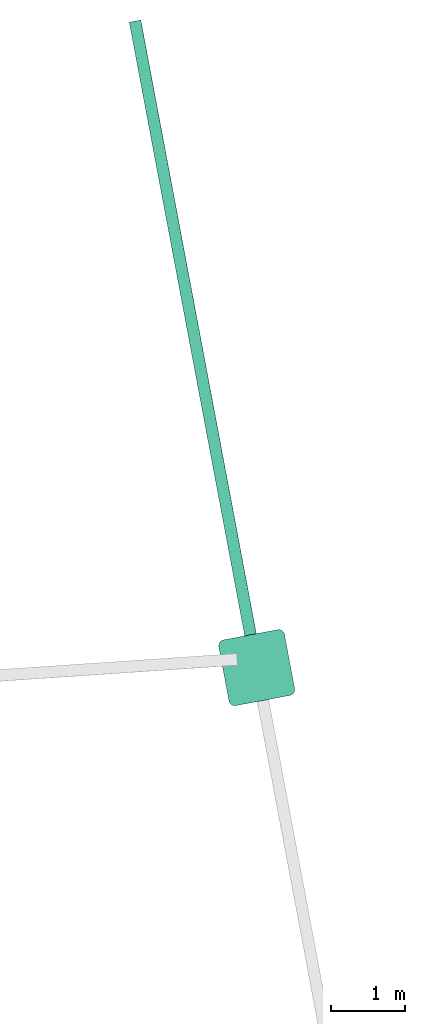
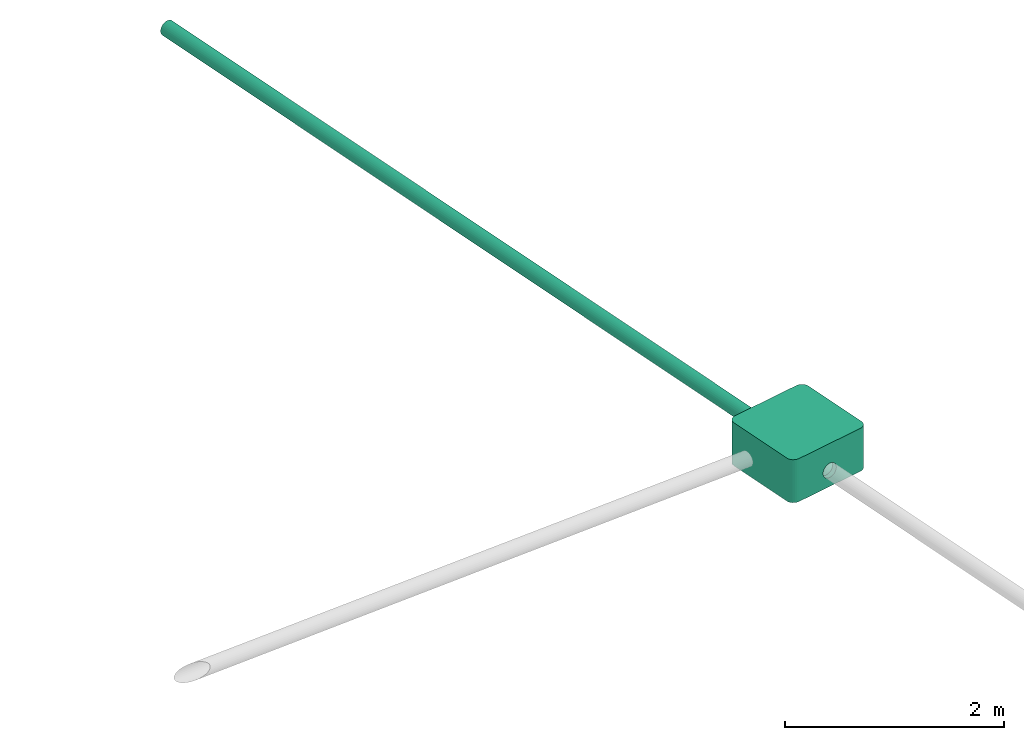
# One storey, part 13 of 17: 1 flow controller, 1 flow segment.
"""IFC2X3 building model written with IfcOpenShell, lengths in centimetres."""

from ifc_helpers import new_model, entity, si_unit, converted_unit, derived_unit, direction, frame, frame_2d, origin, place, context, subcontext, project, spatial, circle, extrude, faceted_brep, source, transform, mapped, material, type_object, type_shapes, element, save


model = new_model("IFC2X3")

# Units and contexts
model_context = context("Model", 3, precision=0.001, world=origin(), true_north=direction((6.12303176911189e-17, 1.0)))
body_context = subcontext(model_context, "Body", "Model", "MODEL_VIEW")
ifc_project = project(units=[si_unit("LENGTHUNIT", "METRE", prefix="CENTI"), si_unit("AREAUNIT", "SQUARE_METRE"), si_unit("VOLUMEUNIT", "CUBIC_METRE"), converted_unit("PLANEANGLEUNIT", "DEGREE", entity("IfcRatioMeasure", 0.0174532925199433), si_unit("PLANEANGLEUNIT", "RADIAN"), dimensions=[0, 0, 0, 0, 0, 0, 0]), si_unit("MASSUNIT", "GRAM", prefix="KILO"), derived_unit("MASSDENSITYUNIT", [(si_unit("MASSUNIT", "GRAM", prefix="KILO"), 1), (si_unit("LENGTHUNIT", "METRE"), -3)]), si_unit("TIMEUNIT", "SECOND"), si_unit("FREQUENCYUNIT", "HERTZ"), si_unit("THERMODYNAMICTEMPERATUREUNIT", "DEGREE_CELSIUS"), derived_unit("THERMALTRANSMITTANCEUNIT", [(si_unit("MASSUNIT", "GRAM", prefix="KILO"), 1), (si_unit("THERMODYNAMICTEMPERATUREUNIT", "KELVIN"), -1), (si_unit("TIMEUNIT", "SECOND"), -3)]), derived_unit("VOLUMETRICFLOWRATEUNIT", [(si_unit("LENGTHUNIT", "METRE"), 3), (si_unit("TIMEUNIT", "SECOND"), -1)]), si_unit("ELECTRICCURRENTUNIT", "AMPERE"), si_unit("ELECTRICVOLTAGEUNIT", "VOLT"), si_unit("POWERUNIT", "WATT"), si_unit("FORCEUNIT", "NEWTON", prefix="KILO"), si_unit("ILLUMINANCEUNIT", "LUX"), si_unit("LUMINOUSFLUXUNIT", "LUMEN"), si_unit("LUMINOUSINTENSITYUNIT", "CANDELA"), derived_unit("USERDEFINED", [(si_unit("MASSUNIT", "GRAM", prefix="KILO"), -1), (si_unit("LENGTHUNIT", "METRE"), -2), (si_unit("TIMEUNIT", "SECOND"), 3), (si_unit("LUMINOUSFLUXUNIT", "LUMEN"), 1)]), derived_unit("LINEARVELOCITYUNIT", [(si_unit("LENGTHUNIT", "METRE"), 1), (si_unit("TIMEUNIT", "SECOND"), -1)]), si_unit("PRESSUREUNIT", "PASCAL"), derived_unit("USERDEFINED", [(si_unit("LENGTHUNIT", "METRE"), -2), (si_unit("MASSUNIT", "GRAM", prefix="KILO"), 1), (si_unit("TIMEUNIT", "SECOND"), -2)])], contexts=[model_context])

# Site, building, storey
site_placement = place(None, frame((2611.71187422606, 13650.4058644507, 0.0), z_axis=(0.0, 0.0, 1.0), x_axis=(0.0673222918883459, -0.997731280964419, 0.0)))
site = spatial("IfcSite", under=ifc_project, at=site_placement, Name="Surface", CompositionType="ELEMENT")
building_placement = place(site_placement, origin())
building = spatial("IfcBuilding", under=site, at=building_placement, CompositionType="ELEMENT")
storey_placement = place(building_placement, frame((0.0, 0.0, 86950.0)))
storey = spatial("IfcBuildingStorey", under=building, at=storey_placement, Name="-1 Soubassement", CompositionType="ELEMENT", Elevation=86950.0)

# Flow controller
ifc_material = material(Name="Béton, précoulé")
valve_type = type_object("IfcValveType", Name="Regard EP 900x900", PredefinedType="NOTDEFINED", material=ifc_material)
shared_shape = source(origin(), body_context, "Body", "Brep", [
    faceted_brep([(82.1595272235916, 90.1595272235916, 48.0), (8.15952722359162, 90.1595272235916, 48.0), (6.08897486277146, 89.8869338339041, 48.0), (4.15952722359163, 89.0877304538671, 48.0), (2.50267297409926, 87.816381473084, 48.0), (1.23132399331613, 86.1595272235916, 48.0), (0.43212061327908, 84.2300795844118, 48.0), (0.159527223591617, 82.1595272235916, 48.0), (0.159527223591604, 8.15952722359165, 48.0), (0.432120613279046, 6.08897486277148, 48.0), (1.23132399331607, 4.15952722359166, 48.0), (2.50267297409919, 2.50267297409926, 48.0), (4.15952722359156, 1.23132399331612, 48.0), (6.08897486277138, 0.43212061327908, 48.0), (8.15952722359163, 0.159527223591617, 48.0), (82.1595272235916, 0.159527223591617, 48.0), (84.2300795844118, 0.43212061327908, 48.0), (86.1595272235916, 1.23132399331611, 48.0), (87.816381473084, 2.50267297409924, 48.0), (89.0877304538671, 4.15952722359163, 48.0), (89.8869338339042, 6.08897486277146, 48.0), (90.1595272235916, 8.15952722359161, 48.0), (90.1595272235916, 82.1595272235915, 48.0), (89.8869338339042, 84.2300795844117, 48.0), (89.0877304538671, 86.1595272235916, 48.0), (87.816381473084, 87.8163814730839, 48.0), (86.1595272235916, 89.0877304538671, 48.0), (84.2300795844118, 89.8869338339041, 48.0), (0.159527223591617, 82.1595272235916, 43.0), (0.43212061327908, 84.2300795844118, 43.0), (1.23132399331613, 86.1595272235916, 43.0), (2.50267297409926, 87.816381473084, 43.0), (4.15952722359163, 89.0877304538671, 43.0), (6.08897486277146, 89.8869338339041, 43.0), (8.15952722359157, 90.1595272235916, 43.0), (82.1595272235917, 90.1595272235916, 43.0), (84.2300795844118, 89.8869338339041, 43.0), (86.1595272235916, 89.0877304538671, 43.0), (87.816381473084, 87.8163814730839, 43.0), (89.0877304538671, 86.1595272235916, 43.0), (89.8869338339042, 84.2300795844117, 43.0), (90.1595272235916, 82.1595272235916, 43.0), (90.1595272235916, 8.15952722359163, 43.0), (89.8869338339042, 6.08897486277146, 43.0), (89.0877304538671, 4.15952722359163, 43.0), (87.816381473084, 2.50267297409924, 43.0), (86.1595272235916, 1.23132399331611, 43.0), (84.2300795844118, 0.43212061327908, 43.0), (82.1595272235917, 0.159527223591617, 43.0), (8.15952722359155, 0.159527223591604, 43.0), (6.08897486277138, 0.43212061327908, 43.0), (4.15952722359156, 1.23132399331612, 43.0), (2.50267297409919, 2.50267297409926, 43.0), (1.23132399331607, 4.15952722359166, 43.0), (0.432120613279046, 6.08897486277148, 43.0), (0.159527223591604, 8.15952722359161, 43.0)], [[[0, 1, 2, 3, 4, 5, 6, 7, 8, 9, 10, 11, 12, 13, 14, 15, 16, 17, 18, 19, 20, 21, 22, 23, 24, 25, 26, 27]], [[28, 29, 30, 31, 32, 33, 34, 35, 36, 37, 38, 39, 40, 41, 42, 43, 44, 45, 46, 47, 48, 49, 50, 51, 52, 53, 54, 55]], [[1, 0, 35, 34]], [[2, 1, 34, 33]], [[3, 2, 33, 32]], [[4, 3, 32, 31]], [[29, 28, 7, 6]], [[5, 4, 31, 30]], [[30, 29, 6, 5]], [[8, 7, 28, 55]], [[9, 8, 55, 54]], [[10, 9, 54, 53]], [[11, 10, 53, 52]], [[50, 49, 14, 13]], [[12, 51, 50, 13]], [[51, 12, 11, 52]], [[15, 14, 49, 48]], [[16, 15, 48, 47]], [[17, 16, 47, 46]], [[18, 17, 46, 45]], [[45, 44, 19, 18]], [[19, 44, 43, 20]], [[21, 20, 43, 42]], [[22, 21, 42, 41]], [[23, 22, 41, 40]], [[24, 23, 40, 39]], [[25, 24, 39, 38]], [[26, 25, 38, 37]], [[26, 37, 36, 27]], [[36, 35, 0, 27]]]),
    faceted_brep([(0.159527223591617, 82.1595272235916, 0.0), (0.432120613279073, 84.2300795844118, 0.0), (1.23132399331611, 86.1595272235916, 0.0), (2.50267297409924, 87.816381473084, 0.0), (4.15952722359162, 89.0877304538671, 0.0), (6.08897486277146, 89.8869338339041, 0.0), (8.15952722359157, 90.1595272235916, 0.0), (82.1595272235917, 90.1595272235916, 0.0), (84.2300795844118, 89.8869338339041, 0.0), (86.1595272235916, 89.0877304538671, 0.0), (87.816381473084, 87.8163814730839, 0.0), (89.0877304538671, 86.1595272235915, 0.0), (89.8869338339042, 84.2300795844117, 0.0), (90.1595272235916, 82.1595272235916, 0.0), (90.1595272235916, 8.15952722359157, 0.0), (89.8869338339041, 6.0889748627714, 0.0), (89.0877304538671, 4.15952722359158, 0.0), (87.816381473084, 2.5026729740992, 0.0), (86.1595272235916, 1.23132399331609, 0.0), (84.2300795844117, 0.43212061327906, 0.0), (82.1595272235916, 0.159527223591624, 0.0), (8.15952722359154, 0.159527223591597, 0.0), (6.08897486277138, 0.43212061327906, 0.0), (4.15952722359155, 1.23132399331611, 0.0), (2.50267297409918, 2.50267297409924, 0.0), (1.23132399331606, 4.15952722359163, 0.0), (0.43212061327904, 6.08897486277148, 0.0), (0.159527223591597, 8.15952722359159, 0.0), (87.816381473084, 87.8163814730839, 5.0), (86.1595272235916, 89.0877304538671, 5.0), (84.2300795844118, 89.8869338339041, 5.0), (82.1595272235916, 90.1595272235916, 5.0), (8.15952722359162, 90.1595272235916, 5.0), (6.08897486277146, 89.8869338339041, 5.0), (4.15952722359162, 89.0877304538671, 5.0), (2.50267297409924, 87.816381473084, 5.0), (1.23132399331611, 86.1595272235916, 5.0), (0.432120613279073, 84.2300795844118, 5.0), (0.159527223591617, 82.1595272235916, 5.0), (0.159527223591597, 8.15952722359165, 5.0), (0.43212061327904, 6.08897486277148, 5.0), (1.23132399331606, 4.15952722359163, 5.0), (2.50267297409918, 2.50267297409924, 5.0), (4.15952722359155, 1.23132399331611, 5.0), (6.08897486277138, 0.43212061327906, 5.0), (8.15952722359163, 0.15952722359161, 5.0), (82.1595272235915, 0.159527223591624, 5.0), (84.2300795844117, 0.43212061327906, 5.0), (86.1595272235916, 1.23132399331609, 5.0), (87.816381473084, 2.5026729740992, 5.0), (89.0877304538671, 4.15952722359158, 5.0), (89.8869338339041, 6.0889748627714, 5.0), (90.1595272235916, 8.15952722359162, 5.0), (90.1595272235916, 82.1595272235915, 5.0), (89.8869338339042, 84.2300795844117, 5.0), (89.0877304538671, 86.1595272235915, 5.0)], [[[0, 1, 2, 3, 4, 5, 6, 7, 8, 9, 10, 11, 12, 13, 14, 15, 16, 17, 18, 19, 20, 21, 22, 23, 24, 25, 26, 27]], [[28, 29, 30, 31, 32, 33, 34, 35, 36, 37, 38, 39, 40, 41, 42, 43, 44, 45, 46, 47, 48, 49, 50, 51, 52, 53, 54, 55]], [[32, 31, 7, 6]], [[39, 38, 0, 27]], [[46, 45, 21, 20]], [[53, 52, 14, 13]], [[33, 32, 6, 5]], [[34, 33, 5, 4]], [[35, 34, 4, 3]], [[1, 0, 38, 37]], [[36, 35, 3, 2]], [[2, 1, 37, 36]], [[40, 39, 27, 26]], [[41, 40, 26, 25]], [[42, 41, 25, 24]], [[22, 21, 45, 44]], [[43, 23, 22, 44]], [[23, 43, 42, 24]], [[47, 46, 20, 19]], [[48, 47, 19, 18]], [[49, 48, 18, 17]], [[17, 16, 50, 49]], [[50, 16, 15, 51]], [[52, 51, 15, 14]], [[54, 53, 13, 12]], [[55, 54, 12, 11]], [[28, 55, 11, 10]], [[29, 28, 10, 9]], [[29, 9, 8, 30]], [[8, 7, 31, 30]]]),
    faceted_brep([(86.1595272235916, 1.23132399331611, 43.0), (83.6595272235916, 5.56145101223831, 43.0), (84.2300795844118, 0.432120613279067, 43.0), (84.2808475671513, 6.03820688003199, 43.0), (87.816381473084, 2.50267297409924, 43.0), (89.0877304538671, 4.15952722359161, 43.0), (84.7576034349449, 6.65952722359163, 43.0), (89.8869338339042, 6.08897486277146, 43.0), (85.0573047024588, 7.38307008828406, 43.0), (90.1595272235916, 8.15952722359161, 43.0), (85.1595272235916, 8.15952722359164, 43.0), (85.1595272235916, 82.1595272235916, 43.0), (90.1595272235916, 82.1595272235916, 43.0), (85.0573047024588, 82.9359843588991, 43.0), (89.8869338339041, 84.2300795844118, 43.0), (84.7576034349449, 83.6595272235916, 43.0), (89.0877304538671, 86.1595272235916, 43.0), (84.2808475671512, 84.2808475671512, 43.0), (87.816381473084, 87.816381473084, 43.0), (86.1595272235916, 89.0877304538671, 43.0), (83.6595272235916, 84.7576034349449, 43.0), (84.2300795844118, 89.8869338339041, 43.0), (82.9359843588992, 85.0573047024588, 43.0), (82.1595272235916, 90.1595272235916, 43.0), (82.1595272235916, 85.1595272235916, 43.0), (8.15952722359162, 85.1595272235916, 43.0), (8.15952722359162, 90.1595272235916, 43.0), (7.38307008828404, 85.0573047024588, 43.0), (6.08897486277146, 89.8869338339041, 43.0), (6.65952722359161, 84.7576034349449, 43.0), (4.15952722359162, 89.0877304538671, 43.0), (6.03820688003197, 84.2808475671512, 43.0), (2.50267297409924, 87.816381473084, 43.0), (1.23132399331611, 86.1595272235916, 43.0), (5.56145101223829, 83.6595272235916, 43.0), (0.432120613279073, 84.2300795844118, 43.0), (5.26174974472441, 82.9359843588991, 43.0), (0.159527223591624, 82.1595272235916, 43.0), (5.15952722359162, 82.1595272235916, 43.0), (0.159527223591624, 8.15952722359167, 43.0), (5.15952722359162, 8.1595272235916, 43.0), (5.26174974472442, 7.38307008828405, 43.0), (0.43212061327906, 6.08897486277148, 43.0), (5.5614510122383, 6.6595272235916, 43.0), (1.23132399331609, 4.15952722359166, 43.0), (6.03820688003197, 6.03820688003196, 43.0), (2.5026729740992, 2.50267297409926, 43.0), (4.15952722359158, 1.23132399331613, 43.0), (6.65952722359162, 5.5614510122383, 43.0), (6.0889748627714, 0.43212061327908, 43.0), (7.38307008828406, 5.26174974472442, 43.0), (8.15952722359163, 0.159527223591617, 43.0), (8.15952722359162, 5.15952722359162, 43.0), (82.1595272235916, 0.159527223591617, 43.0), (82.9359843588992, 5.26174974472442, 43.0), (82.1595272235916, 5.15952722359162, 43.0), (86.1595272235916, 89.0877304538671, 5.0), (83.6595272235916, 84.7576034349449, 5.0), (84.2300795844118, 89.8869338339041, 5.0), (84.2808475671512, 84.2808475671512, 5.0), (87.816381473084, 87.816381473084, 5.0), (89.0877304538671, 86.1595272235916, 5.0), (84.7576034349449, 83.6595272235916, 5.0), (89.8869338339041, 84.2300795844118, 5.0), (85.0573047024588, 82.9359843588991, 5.0), (90.1595272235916, 82.1595272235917, 5.0), (85.1595272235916, 82.1595272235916, 5.0), (85.1595272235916, 8.15952722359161, 5.0), (90.1595272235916, 8.15952722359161, 5.0), (85.0573047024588, 7.38307008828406, 5.0), (89.8869338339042, 6.08897486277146, 5.0), (84.7576034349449, 6.65952722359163, 5.0), (89.0877304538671, 4.15952722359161, 5.0), (84.2808475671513, 6.03820688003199, 5.0), (87.816381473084, 2.50267297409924, 5.0), (86.1595272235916, 1.23132399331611, 5.0), (83.6595272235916, 5.56145101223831, 5.0), (84.2300795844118, 0.432120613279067, 5.0), (82.9359843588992, 5.26174974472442, 5.0), (82.1595272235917, 0.159527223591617, 5.0), (82.1595272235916, 5.15952722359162, 5.0), (8.15952722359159, 5.15952722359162, 5.0), (8.15952722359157, 0.159527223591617, 5.0), (7.38307008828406, 5.26174974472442, 5.0), (6.0889748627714, 0.43212061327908, 5.0), (6.65952722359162, 5.5614510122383, 5.0), (4.15952722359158, 1.23132399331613, 5.0), (6.03820688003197, 6.03820688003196, 5.0), (2.5026729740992, 2.50267297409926, 5.0), (1.23132399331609, 4.15952722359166, 5.0), (5.5614510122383, 6.6595272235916, 5.0), (0.43212061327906, 6.08897486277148, 5.0), (5.26174974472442, 7.38307008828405, 5.0), (0.159527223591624, 8.15952722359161, 5.0), (5.15952722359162, 8.15952722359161, 5.0), (0.159527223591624, 82.1595272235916, 5.0), (5.15952722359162, 82.1595272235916, 5.0), (5.26174974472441, 82.9359843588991, 5.0), (0.432120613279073, 84.2300795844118, 5.0), (5.56145101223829, 83.6595272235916, 5.0), (1.23132399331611, 86.1595272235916, 5.0), (6.03820688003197, 84.2808475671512, 5.0), (2.50267297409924, 87.816381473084, 5.0), (4.15952722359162, 89.0877304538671, 5.0), (6.65952722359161, 84.7576034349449, 5.0), (6.08897486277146, 89.8869338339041, 5.0), (7.38307008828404, 85.0573047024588, 5.0), (8.15952722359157, 90.1595272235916, 5.0), (8.15952722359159, 85.1595272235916, 5.0), (82.1595272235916, 90.1595272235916, 5.0), (82.9359843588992, 85.0573047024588, 5.0), (82.1595272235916, 85.1595272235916, 5.0), (49.1595272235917, 90.1595272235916, 24.9282032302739), (47.2300795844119, 90.1595272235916, 25.7274066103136), (50.8163814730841, 90.1595272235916, 23.6568542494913), (45.1595272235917, 90.1595272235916, 26.0), (52.0877304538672, 90.1595272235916, 22.0), (52.8869338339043, 90.1595272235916, 20.0705523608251), (53.1595272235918, 90.1595272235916, 18.0), (52.8869338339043, 90.1595272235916, 15.9294476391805), (52.0877304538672, 90.1595272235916, 14.0), (50.8163814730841, 90.1595272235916, 12.3431457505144), (49.1595272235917, 90.1595272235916, 11.0717967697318), (47.2300795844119, 90.1595272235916, 10.2725933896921), (45.1595272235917, 90.1595272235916, 10.0), (37.4321206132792, 90.1595272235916, 20.0705523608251), (43.0889748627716, 90.1595272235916, 10.2725933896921), (41.1595272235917, 90.1595272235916, 11.0717967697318), (39.5026729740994, 90.1595272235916, 12.3431457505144), (38.2313239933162, 90.1595272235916, 14.0), (37.4321206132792, 90.1595272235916, 15.9294476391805), (37.1595272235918, 90.1595272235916, 18.0), (38.2313239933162, 90.1595272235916, 22.0), (43.0889748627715, 90.1595272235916, 25.7274066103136), (41.1595272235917, 90.1595272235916, 24.9282032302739), (39.5026729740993, 90.1595272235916, 23.6568542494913), (41.15952722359, 0.159527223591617, 24.9282032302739), (43.0889748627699, 0.159527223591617, 25.7274066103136), (39.5026729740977, 0.159527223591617, 23.6568542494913), (45.15952722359, 0.159527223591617, 26.0), (38.2313239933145, 0.159527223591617, 22.0), (37.4321206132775, 0.159527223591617, 20.0705523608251), (37.1595272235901, 0.159527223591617, 18.0), (37.4321206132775, 0.159527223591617, 15.9294476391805), (38.2313239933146, 0.159527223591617, 14.0), (39.5026729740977, 0.159527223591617, 12.3431457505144), (41.1595272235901, 0.159527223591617, 11.0717967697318), (43.0889748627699, 0.159527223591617, 10.2725933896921), (45.1595272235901, 0.159527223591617, 10.0), (52.8869338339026, 0.159527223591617, 20.0705523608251), (47.2300795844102, 0.159527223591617, 10.2725933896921), (49.1595272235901, 0.159527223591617, 11.0717967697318), (50.8163814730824, 0.159527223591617, 12.3431457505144), (52.0877304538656, 0.159527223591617, 14.0), (52.8869338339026, 0.159527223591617, 15.9294476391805), (53.1595272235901, 0.159527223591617, 18.0), (52.0877304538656, 0.159527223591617, 22.0), (47.2300795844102, 0.159527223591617, 25.7274066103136), (49.15952722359, 0.159527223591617, 24.9282032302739), (50.8163814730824, 0.159527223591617, 23.6568542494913), (38.2313239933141, 5.15952722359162, 14.0), (37.432120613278, 5.15952722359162, 15.9294476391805), (37.4321206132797, 85.1595272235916, 15.9294476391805), (38.2313239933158, 85.1595272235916, 14.0), (37.15952722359, 5.15952722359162, 18.0), (37.1595272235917, 85.1595272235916, 18.0), (43.0889748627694, 5.15952722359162, 10.2725933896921), (41.1595272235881, 5.15952722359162, 11.0717967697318), (41.1595272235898, 85.1595272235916, 11.0717967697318), (43.0889748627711, 85.1595272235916, 10.2725933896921), (39.5026729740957, 5.15952722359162, 12.3431457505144), (39.5026729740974, 85.1595272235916, 12.3431457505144), (45.15952722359, 5.15952722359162, 10.0), (45.1595272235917, 85.1595272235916, 10.0), (47.2300795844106, 5.15952722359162, 10.2725933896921), (47.2300795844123, 85.1595272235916, 10.2725933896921), (49.1595272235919, 5.15952722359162, 11.0717967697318), (49.1595272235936, 85.1595272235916, 11.0717967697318), (52.0877304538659, 5.15952722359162, 14.0), (50.8163814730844, 5.15952722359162, 12.3431457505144), (50.8163814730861, 85.1595272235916, 12.3431457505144), (52.0877304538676, 85.1595272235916, 14.0), (52.886933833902, 5.15952722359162, 15.9294476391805), (52.8869338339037, 85.1595272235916, 15.9294476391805), (53.15952722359, 5.15952722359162, 18.0), (53.1595272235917, 85.1595272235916, 18.0), (52.0877304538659, 5.15952722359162, 22.0), (52.8869338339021, 5.15952722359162, 20.0705523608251), (52.8869338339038, 85.1595272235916, 20.0705523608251), (52.0877304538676, 85.1595272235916, 22.0), (47.2300795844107, 5.15952722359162, 25.7274066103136), (49.159527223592, 5.15952722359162, 24.9282032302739), (49.1595272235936, 85.1595272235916, 24.9282032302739), (47.2300795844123, 85.1595272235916, 25.7274066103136), (50.8163814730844, 5.15952722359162, 23.6568542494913), (50.8163814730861, 85.1595272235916, 23.6568542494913), (45.15952722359, 5.15952722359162, 26.0), (45.1595272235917, 85.1595272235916, 26.0), (43.0889748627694, 5.15952722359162, 25.7274066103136), (43.0889748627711, 85.1595272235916, 25.7274066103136), (41.1595272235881, 5.15952722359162, 24.9282032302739), (41.1595272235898, 85.1595272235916, 24.9282032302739), (37.432120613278, 5.15952722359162, 20.0705523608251), (38.2313239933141, 5.15952722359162, 22.0), (38.2313239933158, 85.1595272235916, 22.0), (37.4321206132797, 85.1595272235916, 20.0705523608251), (39.5026729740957, 5.15952722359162, 23.6568542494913), (39.5026729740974, 85.1595272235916, 23.6568542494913), (8.15952722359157, 85.1595272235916, 23.8751470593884), (82.1595272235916, 85.1595272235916, 24.1248529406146), (83.3075775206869, 84.9311658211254, 24.0), (82.7444457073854, 85.1019531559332, 21.2463431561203), (84.9311658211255, 83.3075775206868, 24.0), (85.1018157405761, 82.7451365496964, 21.2342534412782), (83.9858115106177, 84.5395872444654, 24.0), (84.5395872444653, 83.9858115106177, 24.0), (85.1595272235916, 82.1595272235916, 23.8751470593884), (85.1595272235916, 8.15952722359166, 24.1248529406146), (84.5395872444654, 6.33324293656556, 24.0), (83.3075775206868, 5.38788862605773, 24.0), (82.7451365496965, 5.21723870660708, 21.2342534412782), (84.9311658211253, 7.01147692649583, 24.0), (85.1018157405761, 7.57391789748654, 26.7657465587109), (83.9858115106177, 5.77946720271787, 24.0), (82.1595272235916, 5.15952722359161, 23.8751470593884), (8.15952722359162, 5.15952722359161, 24.1248529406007), (7.57460873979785, 5.21710129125, 21.2463431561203), (7.01147692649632, 5.38788862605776, 24.0), (5.38788862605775, 7.01147692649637, 24.0), (5.21723870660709, 7.57391789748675, 21.2342534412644), (6.33324293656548, 5.77946720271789, 24.0), (5.77946720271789, 6.33324293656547, 24.0), (5.15952722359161, 8.1595272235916, 23.8751470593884), (5.15952722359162, 82.1595272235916, 24.1248529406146), (5.21710129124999, 82.7444457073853, 21.2463431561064), (5.38788862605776, 83.3075775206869, 24.0), (7.01147692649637, 84.9311658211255, 24.0), (7.57391789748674, 85.1018157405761, 21.2342534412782), (5.77946720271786, 83.9858115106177, 24.0), (6.33324293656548, 84.5395872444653, 24.0)], [[[0, 1, 2]], [[1, 0, 3]], [[4, 3, 0]], [[4, 5, 3]], [[5, 6, 3]], [[5, 7, 6]], [[8, 6, 7]], [[8, 7, 9]], [[8, 9, 10]], [[10, 9, 11]], [[12, 11, 9]], [[13, 11, 12]], [[13, 12, 14]], [[15, 13, 14]], [[16, 15, 14]], [[17, 15, 16]], [[18, 17, 16]], [[18, 19, 17]], [[19, 20, 17]], [[19, 21, 20]], [[20, 21, 22]], [[21, 23, 22]], [[24, 22, 23]], [[24, 23, 25]], [[26, 25, 23]], [[27, 25, 26]], [[27, 26, 28]], [[27, 28, 29]], [[28, 30, 29]], [[31, 29, 30]], [[31, 30, 32]], [[31, 32, 33]], [[33, 34, 31]], [[35, 34, 33]], [[35, 36, 34]], [[36, 35, 37]], [[37, 38, 36]], [[38, 37, 39]], [[39, 40, 38]], [[40, 39, 41]], [[42, 41, 39]], [[41, 42, 43]], [[43, 42, 44]], [[43, 44, 45]], [[45, 44, 46]], [[45, 46, 47]], [[45, 47, 48]], [[47, 49, 48]], [[50, 48, 49]], [[51, 50, 49]], [[51, 52, 50]], [[52, 51, 53]], [[53, 2, 54]], [[54, 55, 53]], [[53, 55, 52]], [[54, 2, 1]], [[56, 57, 58]], [[57, 56, 59]], [[60, 59, 56]], [[60, 61, 59]], [[61, 62, 59]], [[61, 63, 62]], [[64, 62, 63]], [[64, 63, 65]], [[64, 65, 66]], [[66, 65, 67]], [[68, 67, 65]], [[69, 67, 68]], [[69, 68, 70]], [[71, 69, 70]], [[72, 71, 70]], [[73, 71, 72]], [[74, 73, 72]], [[74, 75, 73]], [[75, 76, 73]], [[75, 77, 76]], [[76, 77, 78]], [[77, 79, 78]], [[80, 78, 79]], [[80, 79, 81]], [[82, 81, 79]], [[83, 81, 82]], [[83, 82, 84]], [[83, 84, 85]], [[84, 86, 85]], [[87, 85, 86]], [[87, 86, 88]], [[87, 88, 89]], [[89, 90, 87]], [[91, 90, 89]], [[91, 92, 90]], [[92, 91, 93]], [[93, 94, 92]], [[94, 93, 95]], [[95, 96, 94]], [[96, 95, 97]], [[98, 97, 95]], [[97, 98, 99]], [[99, 98, 100]], [[99, 100, 101]], [[101, 100, 102]], [[101, 102, 103]], [[101, 103, 104]], [[103, 105, 104]], [[106, 104, 105]], [[107, 106, 105]], [[107, 108, 106]], [[108, 107, 109]], [[109, 58, 110]], [[110, 111, 109]], [[109, 111, 108]], [[110, 58, 57]], [[12, 9, 68, 65]], [[23, 112, 113]], [[112, 23, 114]], [[23, 113, 115]], [[116, 114, 23]], [[117, 116, 23]], [[117, 23, 109]], [[115, 26, 23]], [[109, 118, 117]], [[119, 118, 109]], [[120, 119, 109]], [[121, 120, 109]], [[109, 122, 121]], [[122, 109, 123]], [[124, 123, 109]], [[109, 107, 124]], [[26, 125, 107]], [[126, 124, 107]], [[127, 126, 107]], [[107, 128, 127]], [[128, 107, 129]], [[130, 129, 107]], [[131, 130, 107]], [[131, 107, 125]], [[132, 125, 26]], [[26, 115, 133]], [[26, 133, 134]], [[134, 135, 26]], [[135, 132, 26]], [[39, 37, 95, 93]], [[51, 136, 137]], [[136, 51, 138]], [[51, 137, 139]], [[140, 138, 51]], [[141, 140, 51]], [[141, 51, 82]], [[139, 53, 51]], [[82, 142, 141]], [[143, 142, 82]], [[144, 143, 82]], [[145, 144, 82]], [[82, 146, 145]], [[146, 82, 147]], [[148, 147, 82]], [[82, 79, 148]], [[53, 149, 79]], [[150, 148, 79]], [[151, 150, 79]], [[79, 152, 151]], [[152, 79, 153]], [[154, 153, 79]], [[155, 154, 79]], [[155, 79, 149]], [[156, 149, 53]], [[53, 139, 157]], [[53, 157, 158]], [[158, 159, 53]], [[159, 156, 53]], [[144, 160, 161, 143]], [[130, 162, 163, 129]], [[143, 161, 164, 142]], [[131, 165, 162, 130]], [[147, 166, 167, 146]], [[126, 127, 168, 169]], [[146, 167, 170, 145]], [[127, 128, 171, 168]], [[145, 170, 160, 144]], [[171, 128, 129, 163]], [[166, 147, 148, 172]], [[126, 169, 173, 124]], [[172, 148, 150, 174]], [[175, 123, 124, 173]], [[174, 150, 151, 176]], [[177, 122, 123, 175]], [[178, 179, 152, 153]], [[121, 180, 181, 120]], [[176, 151, 152, 179]], [[177, 180, 121, 122]], [[182, 178, 153, 154]], [[119, 120, 181, 183]], [[184, 182, 154, 155]], [[119, 183, 185, 118]], [[156, 186, 187, 149]], [[117, 188, 189, 116]], [[149, 187, 184, 155]], [[118, 185, 188, 117]], [[157, 190, 191, 158]], [[113, 112, 192, 193]], [[158, 191, 194, 159]], [[112, 114, 195, 192]], [[159, 194, 186, 156]], [[195, 114, 116, 189]], [[157, 139, 196, 190]], [[113, 193, 197, 115]], [[198, 196, 139, 137]], [[133, 115, 197, 199]], [[198, 137, 136, 200]], [[133, 199, 201, 134]], [[140, 141, 202, 203]], [[125, 132, 204, 205]], [[138, 140, 203, 206]], [[132, 135, 207, 204]], [[206, 200, 136, 138]], [[134, 201, 207, 135]], [[164, 202, 141, 142]], [[131, 125, 205, 165]], [[14, 63, 61, 16]], [[16, 61, 60, 18]], [[12, 65, 63, 14]], [[19, 56, 58, 21]], [[21, 58, 109, 23]], [[18, 60, 56, 19]], [[28, 105, 103, 30]], [[30, 103, 102, 32]], [[107, 105, 28, 26]], [[33, 100, 98, 35]], [[35, 98, 95, 37]], [[32, 102, 100, 33]], [[42, 91, 89, 44]], [[44, 89, 88, 46]], [[93, 91, 42, 39]], [[47, 86, 84, 49]], [[49, 84, 82, 51]], [[46, 88, 86, 47]], [[2, 77, 75, 0]], [[0, 75, 74, 4]], [[79, 77, 2, 53]], [[5, 72, 70, 7]], [[7, 70, 68, 9]], [[4, 74, 72, 5]], [[25, 201, 199]], [[201, 25, 207]], [[25, 199, 197]], [[204, 207, 25]], [[205, 204, 25]], [[205, 25, 208]], [[197, 24, 25]], [[205, 208, 108]], [[108, 165, 205]], [[162, 165, 108]], [[163, 162, 108]], [[171, 163, 108]], [[108, 168, 171]], [[168, 108, 169]], [[173, 169, 108]], [[108, 111, 173]], [[175, 173, 111]], [[177, 175, 111]], [[111, 180, 177]], [[180, 111, 181]], [[183, 181, 111]], [[185, 183, 111]], [[185, 111, 188]], [[188, 111, 209]], [[188, 209, 24]], [[24, 197, 193]], [[24, 193, 192]], [[192, 195, 24]], [[189, 188, 24]], [[195, 189, 24]], [[210, 22, 211]], [[212, 213, 13]], [[24, 209, 111, 211]], [[20, 22, 210]], [[24, 211, 22]], [[20, 210, 214]], [[214, 57, 59]], [[211, 110, 210]], [[57, 210, 110]], [[17, 214, 215]], [[216, 11, 213, 66]], [[215, 15, 17]], [[213, 11, 13]], [[64, 212, 62]], [[212, 13, 15]], [[57, 214, 210]], [[215, 62, 212]], [[62, 215, 59]], [[212, 64, 213]], [[64, 66, 213]], [[20, 214, 17]], [[215, 214, 59]], [[110, 211, 111]], [[15, 215, 212]], [[11, 216, 66, 67, 217, 10]], [[6, 218, 3]], [[219, 220, 54]], [[221, 6, 8]], [[221, 8, 222]], [[1, 223, 219]], [[8, 10, 222]], [[6, 221, 218]], [[218, 71, 73]], [[222, 10, 217, 67]], [[71, 221, 69]], [[3, 218, 223]], [[224, 55, 220, 80]], [[223, 1, 3]], [[221, 222, 69]], [[220, 55, 54]], [[219, 54, 1]], [[222, 67, 69]], [[223, 76, 219]], [[219, 78, 220]], [[78, 80, 220]], [[71, 218, 221]], [[78, 219, 76]], [[223, 218, 73]], [[76, 223, 73]], [[55, 191, 190]], [[191, 55, 194]], [[55, 190, 196]], [[186, 194, 55]], [[187, 186, 55]], [[187, 55, 224]], [[196, 52, 55]], [[187, 224, 80]], [[80, 184, 187]], [[182, 184, 80]], [[178, 182, 80]], [[179, 178, 80]], [[80, 176, 179]], [[176, 80, 174]], [[172, 174, 80]], [[80, 81, 172]], [[166, 172, 81]], [[167, 166, 81]], [[81, 170, 167]], [[170, 81, 160]], [[161, 160, 81]], [[164, 161, 81]], [[164, 81, 202]], [[202, 81, 225]], [[202, 225, 52]], [[52, 196, 198]], [[52, 198, 200]], [[200, 206, 52]], [[203, 202, 52]], [[206, 203, 52]], [[226, 227, 50]], [[228, 229, 41]], [[52, 225, 81, 226]], [[227, 48, 50]], [[52, 226, 50]], [[85, 227, 83]], [[230, 85, 87]], [[226, 83, 227]], [[48, 227, 230]], [[45, 230, 231]], [[232, 40, 229, 94]], [[231, 43, 45]], [[229, 40, 41]], [[92, 228, 90]], [[228, 41, 43]], [[48, 230, 45]], [[231, 90, 228]], [[90, 231, 87]], [[228, 92, 229]], [[92, 94, 229]], [[43, 231, 228]], [[231, 230, 87]], [[83, 226, 81]], [[85, 230, 227]], [[38, 40, 232, 94, 96, 233]], [[234, 235, 36]], [[236, 237, 27]], [[38, 233, 96, 234]], [[235, 34, 36]], [[38, 234, 36]], [[99, 235, 97]], [[238, 99, 101]], [[234, 97, 235]], [[34, 235, 238]], [[31, 238, 239]], [[208, 25, 237, 108]], [[239, 29, 31]], [[237, 25, 27]], [[106, 236, 104]], [[236, 27, 29]], [[34, 238, 31]], [[239, 104, 236]], [[104, 239, 101]], [[236, 106, 237]], [[106, 108, 237]], [[29, 239, 236]], [[239, 238, 101]], [[97, 234, 96]], [[99, 238, 235]]]),
])
type_shapes(valve_type, [shared_shape])
flow_controller_placement = place(storey_placement, frame((1867.19003206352, 2169.48482057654, 0.0), z_axis=(0.0, 0.0, 1.0), x_axis=(0.118372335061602, -0.992969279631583, 0.0)))
element("IfcFlowController", 1, at=flow_controller_placement, inside=storey, type_object=valve_type, material=ifc_material, Name="Regard Eau pluviale 2:Regard EP 900x900", ObjectType="Regard Eau pluviale 2:Regard EP 900x900", context=body_context, shape_type="MappedRepresentation", body=[
    mapped(shared_shape, transform((0.0, 0.0, 0.0), scale=1.0)),
])

# Flow segment
pipe_segment_type = type_object("IfcPipeSegmentType", Name="Canalisation:Canalisation EP", PredefinedType="NOTDEFINED")
flow_segment_placement = place(storey_placement, origin())
element("IfcFlowSegment", 2, at=flow_segment_placement, inside=storey, type_object=pipe_segment_type, Name="Canalisation:Canalisation EP", ObjectType="Canalisation:Canalisation EP", context=body_context, shape_type="SweptSolid", body=[
    extrude(circle(Radius=8.0, at=frame_2d((2.56363021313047e-14, 0.0), x_axis=(1.0, 0.0))), frame((1038.59988149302, 2025.22891951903, 18.0), z_axis=(0.99296927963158, 0.11837233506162, 0.0), x_axis=(-0.11837233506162, 0.99296927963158, 0.0)), (0.0, 0.0, 1.0), 839.999999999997),
])

save(model, "model.ifc")
